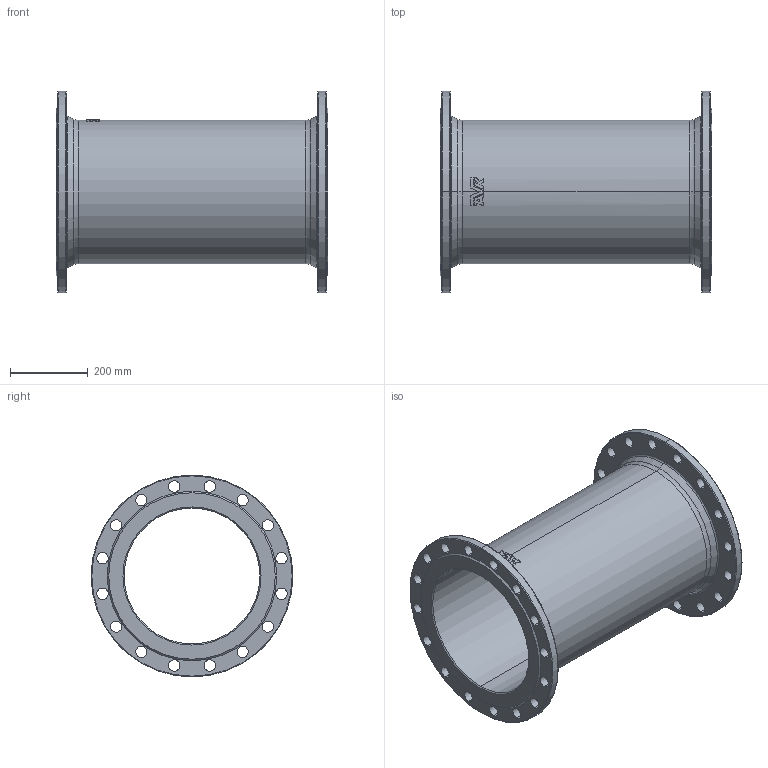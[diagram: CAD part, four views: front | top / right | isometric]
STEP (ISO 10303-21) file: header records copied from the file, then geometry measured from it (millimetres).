
FILE_DESCRIPTION (( 'STEP AP203' ), '1' );
FILE_NAME ('O_712_5010_DN350_1X_REV01.step', '2021-12-03T10:04:03', ( '' ), ( '' ), 'SwSTEP 2.0', 'SolidWorks 2019', '' );
FILE_SCHEMA (( 'CONFIG_CONTROL_DESIGN' ));
Length unit declared in the file: millimetre
Products named in the file (1): O_712_5010_DN350_1X_REV01
Bounding box: 700 x 520 x 520 mm (x, y, z)
Volume: 12436110.1 mm3; surface area: 2033779 mm2
Topology: 1 solids, 1 shells, 148 faces, 391 edges, 252 vertices
Faces by surface type: cylinder 77, plane 26, bspline 17, torus 16, cone 12
Entity records: 5626 total; most frequent: CARTESIAN_POINT 1655, DIRECTION 847, ORIENTED_EDGE 782, EDGE_CURVE 391, AXIS2_PLACEMENT_3D 358, VERTEX_POINT 252, CIRCLE 226, EDGE_LOOP 221
